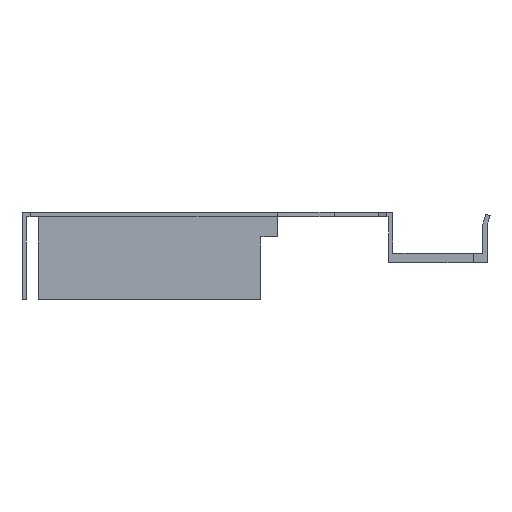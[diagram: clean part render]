
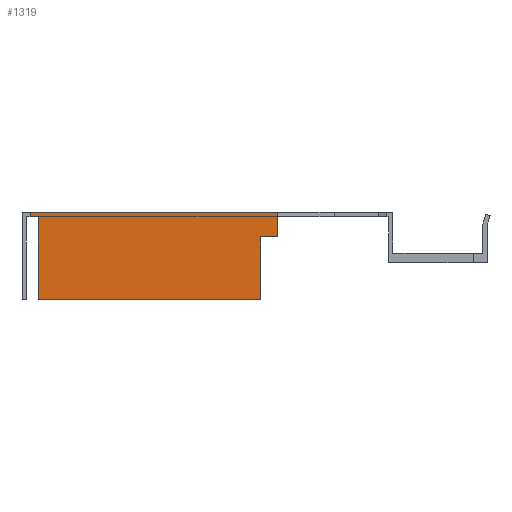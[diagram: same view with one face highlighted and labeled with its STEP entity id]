
A CAD part, left-side view. The second image highlights one B-rep face of the part: STEP entity #1319.
In plain terms, the highlighted planar face has unit normal (-1, 0, 0).
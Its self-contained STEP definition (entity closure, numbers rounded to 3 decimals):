
#119 = EDGE_LOOP ( 'NONE', ( #1285, #1286, #1287, #1289, #1290, #1291, #1292, #1293 ) ) ;
#192 = VERTEX_POINT ( 'NONE', #419 ) ;
#229 = VERTEX_POINT ( 'NONE', #456 ) ;
#230 = VERTEX_POINT ( 'NONE', #457 ) ;
#241 = VERTEX_POINT ( 'NONE', #468 ) ;
#265 = VERTEX_POINT ( 'NONE', #492 ) ;
#268 = VERTEX_POINT ( 'NONE', #495 ) ;
#269 = VERTEX_POINT ( 'NONE', #496 ) ;
#271 = VERTEX_POINT ( 'NONE', #498 ) ;
#419 = CARTESIAN_POINT ( 'NONE',  ( -811., 66.5, 6.7 ) ) ;
#456 = CARTESIAN_POINT ( 'NONE',  ( -811., 21.2, 7.5 ) ) ;
#457 = CARTESIAN_POINT ( 'NONE',  ( -811., 66.5, 7.5 ) ) ;
#468 = CARTESIAN_POINT ( 'NONE',  ( -811., 65., 6.7 ) ) ;
#492 = CARTESIAN_POINT ( 'NONE',  ( -811., 24.2, 3. ) ) ;
#495 = CARTESIAN_POINT ( 'NONE',  ( -811., 65., -8.5 ) ) ;
#496 = CARTESIAN_POINT ( 'NONE',  ( -811., 21.2, 3. ) ) ;
#498 = CARTESIAN_POINT ( 'NONE',  ( -811., 24.2, -8.5 ) ) ;
#533 = CARTESIAN_POINT ( 'NONE',  ( -811., 0.8, 6.7 ) ) ;
#534 = DIRECTION ( 'NONE',  ( 0., 1., 0. ) ) ;
#595 = CARTESIAN_POINT ( 'NONE',  ( -811., 24.2, -8.5 ) ) ;
#596 = DIRECTION ( 'NONE',  ( 0., 0., 1. ) ) ;
#624 = CARTESIAN_POINT ( 'NONE',  ( -811., 65., -8.5 ) ) ;
#625 = DIRECTION ( 'NONE',  ( 0., -1., 0. ) ) ;
#632 = CARTESIAN_POINT ( 'NONE',  ( -811., 66.5, 6.7 ) ) ;
#633 = DIRECTION ( 'NONE',  ( 0., 0., 1. ) ) ;
#634 = CARTESIAN_POINT ( 'NONE',  ( -811., 21.2, 0. ) ) ;
#635 = DIRECTION ( 'NONE',  ( 0., 0., -1. ) ) ;
#638 = CARTESIAN_POINT ( 'NONE',  ( -811., 65., 7.5 ) ) ;
#639 = DIRECTION ( 'NONE',  ( 0., 0., -1. ) ) ;
#642 = CARTESIAN_POINT ( 'NONE',  ( -811., 24.2, 3. ) ) ;
#643 = DIRECTION ( 'NONE',  ( 0., -1., 0. ) ) ;
#758 = CARTESIAN_POINT ( 'NONE',  ( -811., -16.5, 0. ) ) ;
#759 = PLANE ( 'NONE',  #1040 ) ;
#761 = DIRECTION ( 'NONE',  ( -1., 0., 0. ) ) ;
#762 = DIRECTION ( 'NONE',  ( 0., 0., 1. ) ) ;
#863 = CARTESIAN_POINT ( 'NONE',  ( -811., 0., 7.5 ) ) ;
#864 = DIRECTION ( 'NONE',  ( 0., -1., 0. ) ) ;
#900 = EDGE_CURVE ( 'NONE', #241, #192, #1366, .T. ) ;
#930 = EDGE_CURVE ( 'NONE', #271, #265, #1470, .T. ) ;
#944 = EDGE_CURVE ( 'NONE', #268, #271, #1497, .T. ) ;
#948 = EDGE_CURVE ( 'NONE', #192, #230, #1505, .T. ) ;
#949 = EDGE_CURVE ( 'NONE', #229, #269, #1507, .T. ) ;
#951 = EDGE_CURVE ( 'NONE', #241, #268, #1511, .T. ) ;
#953 = EDGE_CURVE ( 'NONE', #265, #269, #1515, .T. ) ;
#1040 = AXIS2_PLACEMENT_3D ( 'NONE', #758, #761, #762 ) ;
#1072 = VECTOR ( 'NONE', #534, 1000. ) ;
#1285 = ORIENTED_EDGE ( 'NONE', *, *, #948, .F. ) ;
#1286 = ORIENTED_EDGE ( 'NONE', *, *, #900, .F. ) ;
#1287 = ORIENTED_EDGE ( 'NONE', *, *, #951, .T. ) ;
#1289 = ORIENTED_EDGE ( 'NONE', *, *, #944, .T. ) ;
#1290 = ORIENTED_EDGE ( 'NONE', *, *, #930, .T. ) ;
#1291 = ORIENTED_EDGE ( 'NONE', *, *, #953, .T. ) ;
#1292 = ORIENTED_EDGE ( 'NONE', *, *, #949, .F. ) ;
#1293 = ORIENTED_EDGE ( 'NONE', *, *, #1415, .F. ) ;
#1319 = ADVANCED_FACE ( 'NONE', ( #1591 ), #759, .T. ) ;
#1366 = LINE ( 'NONE', #533, #1072 ) ;
#1415 = EDGE_CURVE ( 'NONE', #230, #229, #1668, .T. ) ;
#1470 = LINE ( 'NONE', #595, #1471 ) ;
#1471 = VECTOR ( 'NONE', #596, 1000. ) ;
#1497 = LINE ( 'NONE', #624, #1498 ) ;
#1498 = VECTOR ( 'NONE', #625, 1000. ) ;
#1505 = LINE ( 'NONE', #632, #1506 ) ;
#1506 = VECTOR ( 'NONE', #633, 1000. ) ;
#1507 = LINE ( 'NONE', #634, #1508 ) ;
#1508 = VECTOR ( 'NONE', #635, 1000. ) ;
#1511 = LINE ( 'NONE', #638, #1512 ) ;
#1512 = VECTOR ( 'NONE', #639, 1000. ) ;
#1515 = LINE ( 'NONE', #642, #1516 ) ;
#1516 = VECTOR ( 'NONE', #643, 1000. ) ;
#1591 = FACE_OUTER_BOUND ( 'NONE', #119, .T. ) ;
#1668 = LINE ( 'NONE', #863, #1669 ) ;
#1669 = VECTOR ( 'NONE', #864, 1000. ) ;
